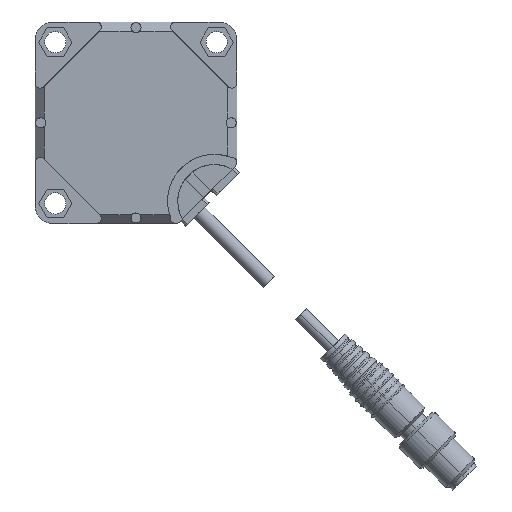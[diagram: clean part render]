
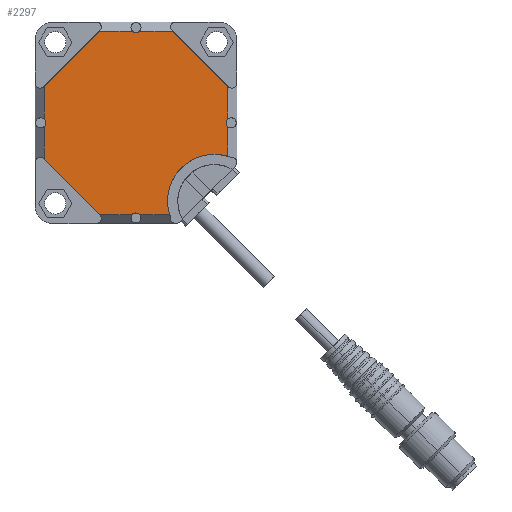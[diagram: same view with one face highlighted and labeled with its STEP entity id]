
A CAD part, left-side view. The second image highlights one B-rep face of the part: STEP entity #2297.
In plain terms, the highlighted planar face has unit normal (-1, 0, 0).
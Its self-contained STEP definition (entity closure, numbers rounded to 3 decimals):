
#1681 = EDGE_CURVE( '', #1839, #3971, #4751, .T. );
#1839 = VERTEX_POINT( '', #4929 );
#1863 = VERTEX_POINT( '', #4959 );
#2119 = VERTEX_POINT( '', #5238 );
#2181 = EDGE_CURVE( '', #3047, #3269, #5308, .T. );
#2197 = EDGE_CURVE( '', #4257, #4239, #5325, .T. );
#2199 = EDGE_CURVE( '', #2375, #4175, #5327, .T. );
#2213 = EDGE_CURVE( '', #2429, #3933, #5343, .T. );
#2257 = EDGE_CURVE( '', #4175, #3047, #5396, .T. );
#2297 = ADVANCED_FACE( '', ( #5441 ), #5442, .F. );
#2345 = EDGE_CURVE( '', #3269, #4517, #5495, .T. );
#2375 = VERTEX_POINT( '', #5529 );
#2429 = VERTEX_POINT( '', #5591 );
#2619 = VERTEX_POINT( '', #5801 );
#2713 = EDGE_CURVE( '', #4517, #1839, #5907, .T. );
#2993 = VERTEX_POINT( '', #6213 );
#3047 = VERTEX_POINT( '', #6273 );
#3061 = VERTEX_POINT( '', #6287 );
#3093 = EDGE_CURVE( '', #2619, #3061, #6324, .T. );
#3107 = EDGE_CURVE( '', #3061, #2429, #6340, .T. );
#3269 = VERTEX_POINT( '', #6511 );
#3343 = EDGE_CURVE( '', #4239, #2119, #6588, .T. );
#3439 = EDGE_CURVE( '', #3933, #2993, #6695, .T. );
#3673 = EDGE_CURVE( '', #3997, #3691, #6960, .T. );
#3691 = VERTEX_POINT( '', #6979 );
#3721 = EDGE_CURVE( '', #3691, #4257, #7010, .T. );
#3833 = EDGE_CURVE( '', #3971, #2619, #7136, .T. );
#3893 = EDGE_CURVE( '', #1863, #2375, #7205, .T. );
#3933 = VERTEX_POINT( '', #7248 );
#3971 = VERTEX_POINT( '', #7288 );
#3997 = VERTEX_POINT( '', #7319 );
#4175 = VERTEX_POINT( '', #7512 );
#4239 = VERTEX_POINT( '', #7580 );
#4257 = VERTEX_POINT( '', #7600 );
#4473 = EDGE_CURVE( '', #2119, #1863, #7844, .T. );
#4493 = EDGE_CURVE( '', #2993, #3997, #7866, .T. );
#4517 = VERTEX_POINT( '', #7893 );
#4751 = LINE( '', #8170, #8171 );
#4929 = CARTESIAN_POINT( '', ( -4.8, -0.714, -18.2 ) );
#4959 = CARTESIAN_POINT( '', ( -4.8, 18.2, 0.714 ) );
#5238 = CARTESIAN_POINT( '', ( -4.8, 18.2, 7.256 ) );
#5308 = LINE( '', #8920, #8921 );
#5325 = LINE( '', #8943, #8944 );
#5327 = LINE( '', #8947, #8948 );
#5343 = LINE( '', #8969, #8970 );
#5396 = LINE( '', #9036, #9037 );
#5441 = FACE_OUTER_BOUND( '', #9099, .T. );
#5442 = PLANE( '', #9100 );
#5495 = CIRCLE( '', #9173, 1. );
#5529 = CARTESIAN_POINT( '', ( -4.8, 18.2, -0.714 ) );
#5591 = CARTESIAN_POINT( '', ( -4.8, -18.2, 0.714 ) );
#5801 = CARTESIAN_POINT( '', ( -4.8, -18.2, -6.646 ) );
#5907 = CIRCLE( '', #9716, 1. );
#6213 = CARTESIAN_POINT( '', ( -4.8, -7.256, 18.2 ) );
#6273 = CARTESIAN_POINT( '', ( -4.8, 7.256, -18.2 ) );
#6287 = CARTESIAN_POINT( '', ( -4.8, -18.2, -0.714 ) );
#6324 = LINE( '', #10279, #10280 );
#6340 = CIRCLE( '', #10303, 1. );
#6511 = CARTESIAN_POINT( '', ( -4.8, 0.714, -18.2 ) );
#6588 = LINE( '', #10662, #10663 );
#6695 = LINE( '', #10808, #10809 );
#6960 = CIRCLE( '', #11157, 1. );
#6979 = CARTESIAN_POINT( '', ( -4.8, 0., 17.9 ) );
#7010 = CIRCLE( '', #11221, 1. );
#7136 = CIRCLE( '', #11384, 9.3 );
#7205 = CIRCLE( '', #11474, 1. );
#7248 = CARTESIAN_POINT( '', ( -4.8, -18.2, 7.256 ) );
#7288 = CARTESIAN_POINT( '', ( -4.8, -6.646, -18.2 ) );
#7319 = CARTESIAN_POINT( '', ( -4.8, -0.714, 18.2 ) );
#7512 = CARTESIAN_POINT( '', ( -4.8, 18.2, -7.256 ) );
#7580 = CARTESIAN_POINT( '', ( -4.8, 7.256, 18.2 ) );
#7600 = CARTESIAN_POINT( '', ( -4.8, 0.714, 18.2 ) );
#7844 = LINE( '', #12317, #12318 );
#7866 = LINE( '', #12353, #12354 );
#7893 = CARTESIAN_POINT( '', ( -4.8, 0., -17.9 ) );
#8170 = CARTESIAN_POINT( '', ( -4.8, 10., -18.2 ) );
#8171 = VECTOR( '', #12690, 1. );
#8920 = CARTESIAN_POINT( '', ( -4.8, 10., -18.2 ) );
#8921 = VECTOR( '', #13351, 1. );
#8943 = CARTESIAN_POINT( '', ( -4.8, 10., 18.2 ) );
#8944 = VECTOR( '', #13372, 1. );
#8947 = CARTESIAN_POINT( '', ( -4.8, 18.2, 10. ) );
#8948 = VECTOR( '', #13373, 1. );
#8969 = CARTESIAN_POINT( '', ( -4.8, -18.2, 10. ) );
#8970 = VECTOR( '', #13398, 1. );
#9036 = CARTESIAN_POINT( '', ( -4.8, 15.51, -9.945 ) );
#9037 = VECTOR( '', #13479, 1. );
#9099 = EDGE_LOOP( '', ( #13533, #13534, #13535, #13536, #13537, #13538, #13539, #13540, #13541, #13542, #13543, #13544, #13545, #13546, #13547, #13548, #13549, #13550 ) );
#9100 = AXIS2_PLACEMENT_3D( '', #13551, #13552, #13553 );
#9173 = AXIS2_PLACEMENT_3D( '', #13627, #13628, #13629 );
#9716 = AXIS2_PLACEMENT_3D( '', #14120, #14121, #14122 );
#10279 = CARTESIAN_POINT( '', ( -4.8, -18.2, 10. ) );
#10280 = VECTOR( '', #14590, 1. );
#10303 = AXIS2_PLACEMENT_3D( '', #14615, #14616, #14617 );
#10662 = CARTESIAN_POINT( '', ( -4.8, 9.945, 15.51 ) );
#10663 = VECTOR( '', #14863, 1. );
#10808 = CARTESIAN_POINT( '', ( -4.8, -15.51, 9.945 ) );
#10809 = VECTOR( '', #15014, 1. );
#11157 = AXIS2_PLACEMENT_3D( '', #15374, #15375, #15376 );
#11221 = AXIS2_PLACEMENT_3D( '', #15418, #15419, #15420 );
#11384 = AXIS2_PLACEMENT_3D( '', #15572, #15573, #15574 );
#11474 = AXIS2_PLACEMENT_3D( '', #15677, #15678, #15679 );
#12317 = CARTESIAN_POINT( '', ( -4.8, 18.2, 10. ) );
#12318 = VECTOR( '', #16422, 1. );
#12353 = CARTESIAN_POINT( '', ( -4.8, 10., 18.2 ) );
#12354 = VECTOR( '', #16452, 1. );
#12690 = DIRECTION( '', ( 0., -1., 0. ) );
#13351 = DIRECTION( '', ( 0., -1., 0. ) );
#13372 = DIRECTION( '', ( 0., 1., 0. ) );
#13373 = DIRECTION( '', ( 0., 0., -1. ) );
#13398 = DIRECTION( '', ( 0., 0., 1. ) );
#13479 = DIRECTION( '', ( 0., -0.707, -0.707 ) );
#13533 = ORIENTED_EDGE( '', *, *, #3833, .T. );
#13534 = ORIENTED_EDGE( '', *, *, #3093, .T. );
#13535 = ORIENTED_EDGE( '', *, *, #3107, .T. );
#13536 = ORIENTED_EDGE( '', *, *, #2213, .T. );
#13537 = ORIENTED_EDGE( '', *, *, #3439, .T. );
#13538 = ORIENTED_EDGE( '', *, *, #4493, .T. );
#13539 = ORIENTED_EDGE( '', *, *, #3673, .T. );
#13540 = ORIENTED_EDGE( '', *, *, #3721, .T. );
#13541 = ORIENTED_EDGE( '', *, *, #2197, .T. );
#13542 = ORIENTED_EDGE( '', *, *, #3343, .T. );
#13543 = ORIENTED_EDGE( '', *, *, #4473, .T. );
#13544 = ORIENTED_EDGE( '', *, *, #3893, .T. );
#13545 = ORIENTED_EDGE( '', *, *, #2199, .T. );
#13546 = ORIENTED_EDGE( '', *, *, #2257, .T. );
#13547 = ORIENTED_EDGE( '', *, *, #2181, .T. );
#13548 = ORIENTED_EDGE( '', *, *, #2345, .T. );
#13549 = ORIENTED_EDGE( '', *, *, #2713, .T. );
#13550 = ORIENTED_EDGE( '', *, *, #1681, .T. );
#13551 = CARTESIAN_POINT( '', ( -4.8, 0., 0. ) );
#13552 = DIRECTION( '', ( 1., 0., 0. ) );
#13553 = DIRECTION( '', ( 0., 0., -1. ) );
#13627 = CARTESIAN_POINT( '', ( -4.8, 0., -18.9 ) );
#13628 = DIRECTION( '', ( 1., 0., 0. ) );
#13629 = DIRECTION( '', ( 0., 0., -1. ) );
#14120 = CARTESIAN_POINT( '', ( -4.8, 0., -18.9 ) );
#14121 = DIRECTION( '', ( 1., 0., 0. ) );
#14122 = DIRECTION( '', ( 0., 0., -1. ) );
#14590 = DIRECTION( '', ( 0., 0., 1. ) );
#14615 = CARTESIAN_POINT( '', ( -4.8, -18.9, 0. ) );
#14616 = DIRECTION( '', ( 1., 0., 0. ) );
#14617 = DIRECTION( '', ( 0., 0., -1. ) );
#14863 = DIRECTION( '', ( 0., 0.707, -0.707 ) );
#15014 = DIRECTION( '', ( 0., 0.707, 0.707 ) );
#15374 = CARTESIAN_POINT( '', ( -4.8, 0., 18.9 ) );
#15375 = DIRECTION( '', ( 1., 0., 0. ) );
#15376 = DIRECTION( '', ( 0., 0., -1. ) );
#15418 = CARTESIAN_POINT( '', ( -4.8, 0., 18.9 ) );
#15419 = DIRECTION( '', ( 1., 0., 0. ) );
#15420 = DIRECTION( '', ( 0., 0., -1. ) );
#15572 = CARTESIAN_POINT( '', ( -4.8, -15.564, -15.564 ) );
#15573 = DIRECTION( '', ( 1., 0., 0. ) );
#15574 = DIRECTION( '', ( 0., 0.934, -0.357 ) );
#15677 = CARTESIAN_POINT( '', ( -4.8, 18.9, 0. ) );
#15678 = DIRECTION( '', ( 1., 0., 0. ) );
#15679 = DIRECTION( '', ( 0., 0., -1. ) );
#16422 = DIRECTION( '', ( 0., 0., -1. ) );
#16452 = DIRECTION( '', ( 0., 1., 0. ) );
